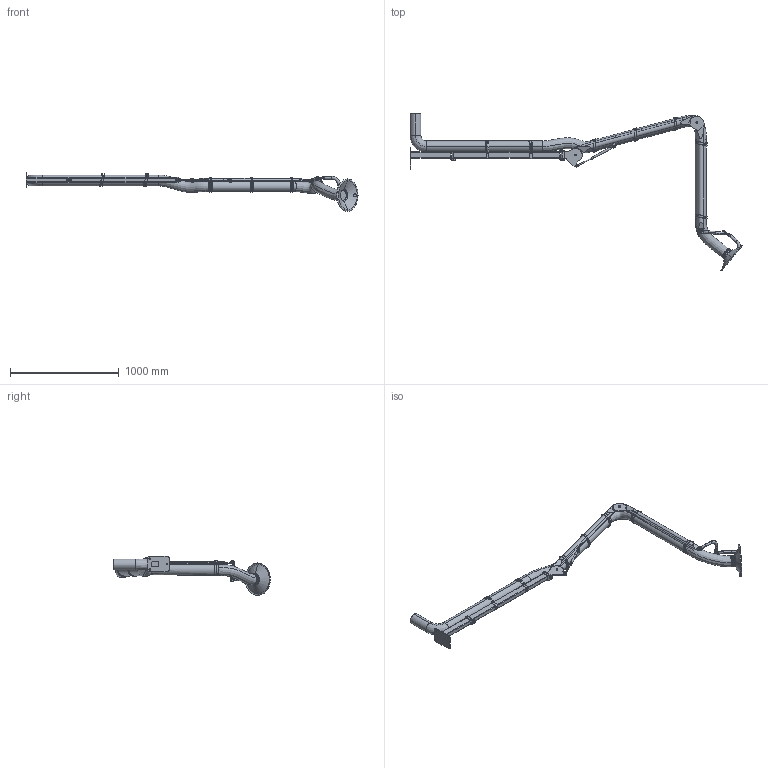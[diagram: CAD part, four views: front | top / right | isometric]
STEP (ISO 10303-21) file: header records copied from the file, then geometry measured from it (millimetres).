
FILE_DESCRIPTION((''),'2;1');
FILE_NAME('PSS_4000-100','2023-02-07T15:04:24',('Tomas Bellgran'),(''),'CREO PARAMETRIC BY PTC INC, 2018260','CREO PARAMETRIC BY PTC INC, 2018260','');
FILE_SCHEMA(('AUTOMOTIVE_DESIGN { 1 0 10303 214 1 1 1 1 }'));
Products named in the file (37): 131085_LIGHT; 131041; 131045_LIGHT; 131045; 144355; 131150; 139380; 131151; 131170; 144356; 141589; 134343_AF0; G_P136_WELD-REF; 141590; 122717_LIGHT; 122750_LIGHT; 130317; ROD_STAB_8-160-REF; 131095; 130322_AF9; 131145; 131131_AF0; 131134_AF0; 131139; 107520; 132682; 131136; 131137; 131138; 107520_AF1; 107520_AF0; SKRUVSATS_LITEN; SKRUVSATS_BIG; SKRUVSATS_LITEN-2; SKRUVSATS_BIGGEST; 120127_COMPL_LIGHT; PSS_4000-100
Assembly tree (56 placements, depth 3):
  PSS_4000-100
    131041
      131085_LIGHT
    131045
      131045_LIGHT
    144355  x4
    131150
    131170
      139380
      131151
    144356  x2
    141590
      141589
      134343_AF0
      G_P136_WELD-REF
    122717_LIGHT
    122750_LIGHT
    130322_AF9
      130317
      ROD_STAB_8-160-REF
      131095  x2
    131145  x2
    131139  x5
      131131_AF0
      131134_AF0
    107520  x5
    132682
    131138  x2
      131136
      131137
    107520_AF1
    107520_AF0
    SKRUVSATS_LITEN  x2
    SKRUVSATS_BIG  x2
    SKRUVSATS_LITEN-2  x2
    SKRUVSATS_BIGGEST  x2
    120127_COMPL_LIGHT  x2
Bounding box: 3046.38 x 1437.18 x 359.45 mm (x, y, z)
Volume: 39475972.1 mm3; surface area: 2699020.7 mm2
Topology: 54 solids, 55 shells, 1429 faces, 3413 edges, 2282 vertices
Faces by surface type: plane 484, cylinder 434, bspline 412, torus 48, cone 42, extrusion 5, sphere 4
Entity records: 56141 total; most frequent: CARTESIAN_POINT 25478, DIRECTION 3933, ORIENTED_EDGE 3678, PRESENTATION_STYLE_ASSIGNMENT 2575, STYLED_ITEM 2548, CURVE_STYLE 1991, EDGE_CURVE 1839, AXIS2_PLACEMENT_3D 1508
